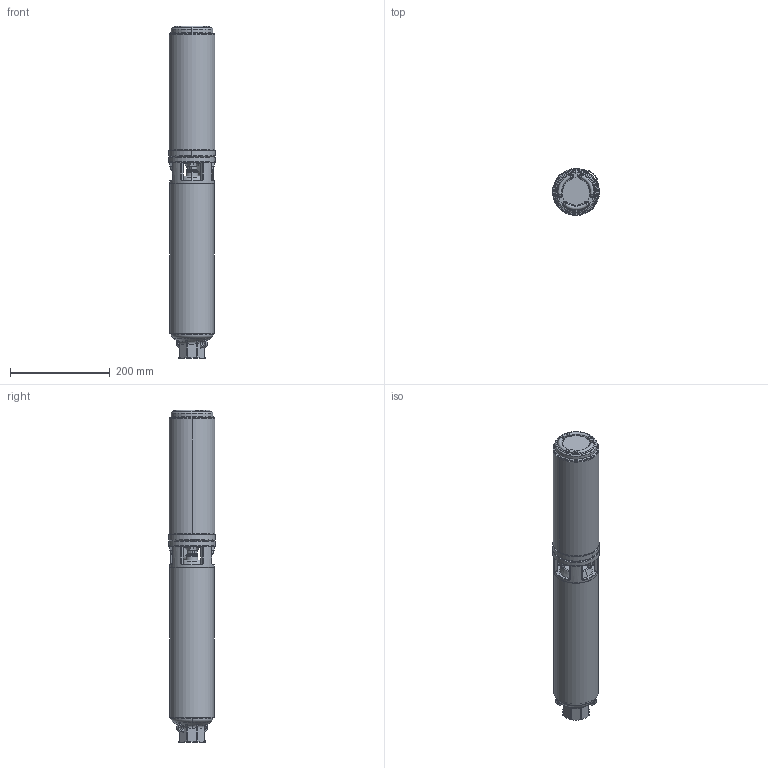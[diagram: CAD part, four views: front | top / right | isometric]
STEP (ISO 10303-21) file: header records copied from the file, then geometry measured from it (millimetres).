
FILE_DESCRIPTION((''),'2;1');
FILE_NAME('2GS07T_L4C_ASM','2014-02-27T',('lcominat'),(''),'PRO/ENGINEER BY PARAMETRIC TECHNOLOGY CORPORATION, 2012480','PRO/ENGINEER BY PARAMETRIC TECHNOLOGY CORPORATION, 2012480','');
FILE_SCHEMA(('CONFIG_CONTROL_DESIGN'));
Length unit declared in the file: millimetre
Products named in the file (3): 2GS07; L4C07T235; 2GS07T_L4C_ASM
Assembly tree (2 placements, depth 2):
  2GS07T_L4C_ASM
    2GS07
    L4C07T235
Bounding box: 94.12 x 94.12 x 665.79 mm (x, y, z)
Volume: 3837613.8 mm3; surface area: 267351 mm2
Topology: 2 solids, 3 shells, 786 faces, 1939 edges, 1192 vertices
Faces by surface type: cylinder 274, plane 223, torus 116, cone 115, bspline 42, sphere 16
Entity records: 25945 total; most frequent: CARTESIAN_POINT 7293, DIRECTION 4029, ORIENTED_EDGE 3870, EDGE_CURVE 1935, AXIS2_PLACEMENT_3D 1668, VERTEX_POINT 1192, CIRCLE 919, EDGE_LOOP 859
